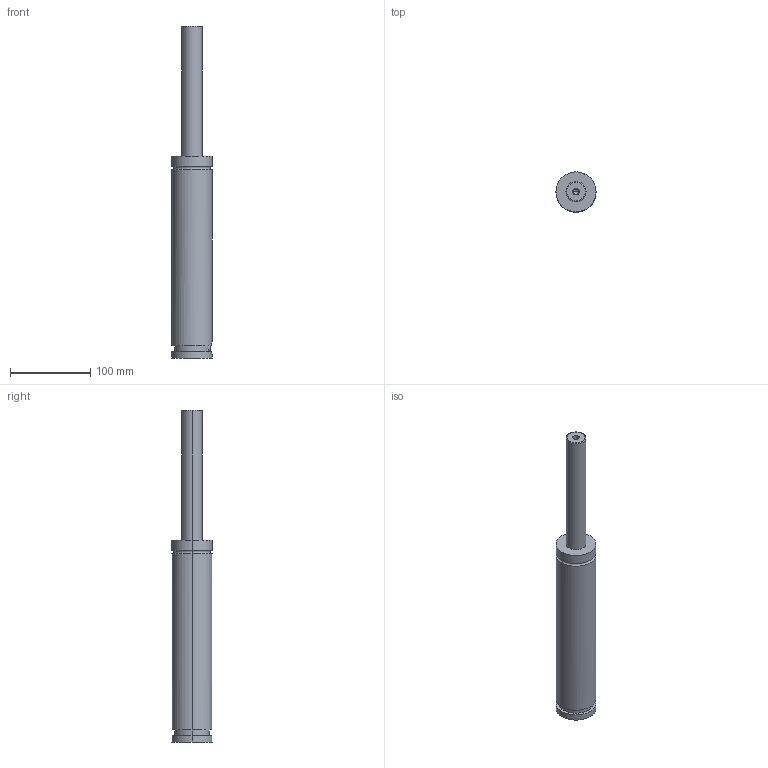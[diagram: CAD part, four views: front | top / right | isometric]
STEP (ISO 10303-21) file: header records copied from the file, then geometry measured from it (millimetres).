
FILE_DESCRIPTION(/* description */ (''),/* implementation_level */ '2;1');
FILE_NAME(/* name */ '3d_gse50-160_03877_r00.stp',/* time_stamp */ '2011-01-10T14:15:19+09:00',/* author */ ('MISUMI'),/* organization */ (''),/* preprocessor_version */ 'ST-DEVELOPER v11',/* originating_system */ 'UGS - NX 5.0',/* authorisation */ '');
FILE_SCHEMA (('CONFIG_CONTROL_DESIGN'));
Length unit declared in the file: millimetre
Products named in the file (1): 3d_gse50-160_03877_r00
Bounding box: 50 x 50 x 415 mm (x, y, z)
Volume: 567756.4 mm3; surface area: 58828.7 mm2
Topology: 1 solids, 1 shells, 57 faces, 125 edges, 79 vertices
Faces by surface type: cylinder 26, plane 21, cone 6, torus 4
Entity records: 1669 total; most frequent: DIRECTION 297, CARTESIAN_POINT 286, ORIENTED_EDGE 246, EDGE_CURVE 123, AXIS2_PLACEMENT_3D 122, VERTEX_POINT 79, EDGE_LOOP 68, CIRCLE 64
